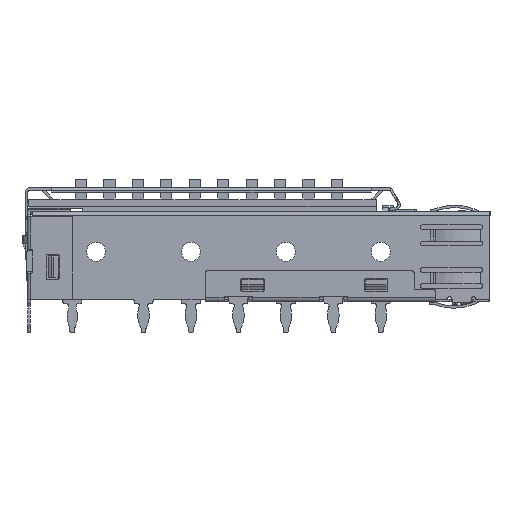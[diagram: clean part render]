
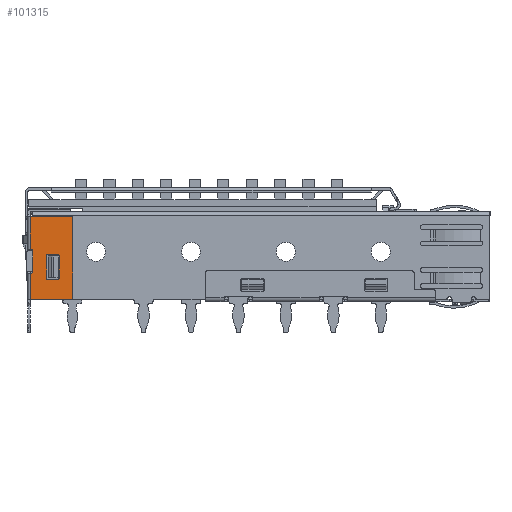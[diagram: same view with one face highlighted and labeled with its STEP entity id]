
A CAD part, front view. The second image highlights one B-rep face of the part: STEP entity #101315.
In plain terms, the highlighted planar face has unit normal (0, -1, 0).
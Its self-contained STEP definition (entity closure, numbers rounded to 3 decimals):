
#94881=CARTESIAN_POINT('',(-0.154,-0.3,-9.2));
#94882=VERTEX_POINT('',#94881);
#94889=CARTESIAN_POINT('',(-4.654,-0.3,-9.2));
#94890=VERTEX_POINT('',#94889);
#94891=CARTESIAN_POINT('',(-4.654,-0.3,-9.2));
#94892=DIRECTION('',(1.,0.,0.));
#94893=VECTOR('',#94892,4.5);
#94894=LINE('',#94891,#94893);
#94895=EDGE_CURVE('',#94890,#94882,#94894,.T.);
#94924=CARTESIAN_POINT('',(-4.654,-0.3,-6.45));
#94925=VERTEX_POINT('',#94924);
#94940=CARTESIAN_POINT('',(-4.654,-0.3,-6.45));
#94941=DIRECTION('',(0.,0.,-1.));
#94942=VECTOR('',#94941,2.75);
#94943=LINE('',#94940,#94942);
#94944=EDGE_CURVE('',#94925,#94890,#94943,.T.);
#94954=CARTESIAN_POINT('',(-4.504,-0.3,-6.45));
#94955=VERTEX_POINT('',#94954);
#94956=CARTESIAN_POINT('',(-4.654,-0.3,-6.45));
#94957=DIRECTION('',(1.,0.,0.));
#94958=VECTOR('',#94957,0.15);
#94959=LINE('',#94956,#94958);
#94960=EDGE_CURVE('',#94925,#94955,#94959,.T.);
#95051=CARTESIAN_POINT('',(-4.504,-0.3,-3.95));
#95052=VERTEX_POINT('',#95051);
#95059=CARTESIAN_POINT('',(-4.654,-0.3,-3.95));
#95060=VERTEX_POINT('',#95059);
#95061=CARTESIAN_POINT('',(-4.504,-0.3,-3.95));
#95062=DIRECTION('',(-1.,0.,0.));
#95063=VECTOR('',#95062,0.15);
#95064=LINE('',#95061,#95063);
#95065=EDGE_CURVE('',#95052,#95060,#95064,.T.);
#95094=CARTESIAN_POINT('',(-4.654,-0.3,-0.5));
#95095=VERTEX_POINT('',#95094);
#95110=CARTESIAN_POINT('',(-4.654,-0.3,-3.95));
#95111=DIRECTION('',(0.,0.,1.));
#95112=VECTOR('',#95111,3.45);
#95113=LINE('',#95110,#95112);
#95114=EDGE_CURVE('',#95060,#95095,#95113,.T.);
#95140=CARTESIAN_POINT('',(-0.154,-0.3,-0.5));
#95141=VERTEX_POINT('',#95140);
#95142=CARTESIAN_POINT('',(-4.654,-0.3,-0.5));
#95143=DIRECTION('',(1.,0.,0.));
#95144=VECTOR('',#95143,4.5);
#95145=LINE('',#95142,#95144);
#95146=EDGE_CURVE('',#95095,#95141,#95145,.T.);
#101196=CARTESIAN_POINT('',(-0.154,-0.3,-0.5));
#101197=DIRECTION('',(0.,0.,-1.));
#101198=VECTOR('',#101197,8.7);
#101199=LINE('',#101196,#101198);
#101200=EDGE_CURVE('',#95141,#94882,#101199,.T.);
#101207=CARTESIAN_POINT('',(-2.404,-0.3,-4.85));
#101208=DIRECTION('',(1.,0.,0.));
#101209=DIRECTION('',(0.,-1.,0.));
#101210=AXIS2_PLACEMENT_3D('',#101207,#101209,#101208);
#101211=PLANE('',#101210);
#101212=ORIENTED_EDGE('',*,*,#95146,.F.);
#101213=ORIENTED_EDGE('',*,*,#95114,.F.);
#101214=ORIENTED_EDGE('',*,*,#95065,.F.);
#101215=CARTESIAN_POINT('',(-4.354,-0.3,-4.1));
#101216=VERTEX_POINT('',#101215);
#101217=CARTESIAN_POINT('',(-4.504,-0.3,-4.1));
#101218=DIRECTION('',(1.,0.,0.));
#101219=DIRECTION('',(0.,-1.,0.));
#101220=AXIS2_PLACEMENT_3D('',#101217,#101219,#101218);
#101221=CIRCLE('',#101220,0.15);
#101222=EDGE_CURVE('',#101216,#95052,#101221,.T.);
#101223=ORIENTED_EDGE('E7668',*,*,#101222,.F.);
#101224=CARTESIAN_POINT('',(-4.354,-0.3,-6.3));
#101225=VERTEX_POINT('',#101224);
#101226=CARTESIAN_POINT('',(-4.354,-0.3,-6.3));
#101227=DIRECTION('',(0.,0.,1.));
#101228=VECTOR('',#101227,2.2);
#101229=LINE('',#101226,#101228);
#101230=EDGE_CURVE('',#101225,#101216,#101229,.T.);
#101231=ORIENTED_EDGE('E7502',*,*,#101230,.F.);
#101232=CARTESIAN_POINT('',(-4.504,-0.3,-6.3));
#101233=DIRECTION('',(0.,0.,-1.));
#101234=DIRECTION('',(0.,-1.,0.));
#101235=AXIS2_PLACEMENT_3D('',#101232,#101234,#101233);
#101236=CIRCLE('',#101235,0.15);
#101237=EDGE_CURVE('',#94955,#101225,#101236,.T.);
#101238=ORIENTED_EDGE('E7666',*,*,#101237,.F.);
#101239=ORIENTED_EDGE('E7666',*,*,#94960,.F.);
#101240=ORIENTED_EDGE('E7666',*,*,#94944,.T.);
#101241=ORIENTED_EDGE('E7666',*,*,#94895,.T.);
#101242=ORIENTED_EDGE('E7666',*,*,#101200,.F.);
#101243=EDGE_LOOP('',(#101212,#101213,#101214,#101223,#101231,#101238,#101239,#101240,#101241,#101242));
#101244=FACE_OUTER_BOUND('',#101243,.T.);
#101245=CARTESIAN_POINT('',(-2.754,-0.3,-4.45));
#101246=VERTEX_POINT('',#101245);
#101247=CARTESIAN_POINT('',(-2.904,-0.3,-4.6));
#101248=VERTEX_POINT('',#101247);
#101249=CARTESIAN_POINT('',(-2.754,-0.3,-4.6));
#101250=DIRECTION('',(0.,0.,1.));
#101251=DIRECTION('',(0.,-1.,0.));
#101252=AXIS2_PLACEMENT_3D('',#101249,#101251,#101250);
#101253=CIRCLE('',#101252,0.15);
#101254=EDGE_CURVE('',#101246,#101248,#101253,.T.);
#101255=ORIENTED_EDGE('E7554',*,*,#101254,.F.);
#101256=CARTESIAN_POINT('',(-1.754,-0.3,-4.45));
#101257=VERTEX_POINT('',#101256);
#101258=CARTESIAN_POINT('',(-1.754,-0.3,-4.45));
#101259=DIRECTION('',(-1.,0.,0.));
#101260=VECTOR('',#101259,1.);
#101261=LINE('',#101258,#101260);
#101262=EDGE_CURVE('',#101257,#101246,#101261,.T.);
#101263=ORIENTED_EDGE('E7551',*,*,#101262,.F.);
#101264=CARTESIAN_POINT('',(-1.604,-0.3,-4.6));
#101265=VERTEX_POINT('',#101264);
#101266=CARTESIAN_POINT('',(-1.754,-0.3,-4.6));
#101267=DIRECTION('',(1.,0.,0.));
#101268=DIRECTION('',(0.,-1.,0.));
#101269=AXIS2_PLACEMENT_3D('',#101266,#101268,#101267);
#101270=CIRCLE('',#101269,0.15);
#101271=EDGE_CURVE('',#101265,#101257,#101270,.T.);
#101272=ORIENTED_EDGE('E7548',*,*,#101271,.F.);
#101273=CARTESIAN_POINT('',(-1.604,-0.3,-7.));
#101274=VERTEX_POINT('',#101273);
#101275=CARTESIAN_POINT('',(-1.604,-0.3,-7.));
#101276=DIRECTION('',(0.,0.,1.));
#101277=VECTOR('',#101276,2.4);
#101278=LINE('',#101275,#101277);
#101279=EDGE_CURVE('',#101274,#101265,#101278,.T.);
#101280=ORIENTED_EDGE('E7545',*,*,#101279,.F.);
#101281=CARTESIAN_POINT('',(-1.754,-0.3,-7.15));
#101282=VERTEX_POINT('',#101281);
#101283=CARTESIAN_POINT('',(-1.754,-0.3,-7.));
#101284=DIRECTION('',(0.,0.,-1.));
#101285=DIRECTION('',(0.,-1.,0.));
#101286=AXIS2_PLACEMENT_3D('',#101283,#101285,#101284);
#101287=CIRCLE('',#101286,0.15);
#101288=EDGE_CURVE('',#101282,#101274,#101287,.T.);
#101289=ORIENTED_EDGE('E7542',*,*,#101288,.F.);
#101290=CARTESIAN_POINT('',(-2.754,-0.3,-7.15));
#101291=VERTEX_POINT('',#101290);
#101292=CARTESIAN_POINT('',(-2.754,-0.3,-7.15));
#101293=DIRECTION('',(1.,0.,0.));
#101294=VECTOR('',#101293,1.);
#101295=LINE('',#101292,#101294);
#101296=EDGE_CURVE('',#101291,#101282,#101295,.T.);
#101297=ORIENTED_EDGE('E7539',*,*,#101296,.F.);
#101298=CARTESIAN_POINT('',(-2.904,-0.3,-7.));
#101299=VERTEX_POINT('',#101298);
#101300=CARTESIAN_POINT('',(-2.754,-0.3,-7.));
#101301=DIRECTION('',(-1.,0.,0.));
#101302=DIRECTION('',(0.,-1.,0.));
#101303=AXIS2_PLACEMENT_3D('',#101300,#101302,#101301);
#101304=CIRCLE('',#101303,0.15);
#101305=EDGE_CURVE('',#101299,#101291,#101304,.T.);
#101306=ORIENTED_EDGE('E7536',*,*,#101305,.F.);
#101307=CARTESIAN_POINT('',(-2.904,-0.3,-4.6));
#101308=DIRECTION('',(0.,0.,-1.));
#101309=VECTOR('',#101308,2.4);
#101310=LINE('',#101307,#101309);
#101311=EDGE_CURVE('',#101248,#101299,#101310,.T.);
#101312=ORIENTED_EDGE('E7532',*,*,#101311,.F.);
#101313=EDGE_LOOP('',(#101255,#101263,#101272,#101280,#101289,#101297,#101306,#101312));
#101314=FACE_BOUND('',#101313,.T.);
#101315=ADVANCED_FACE('F2815',(#101244,#101314),#101211,.T.);
